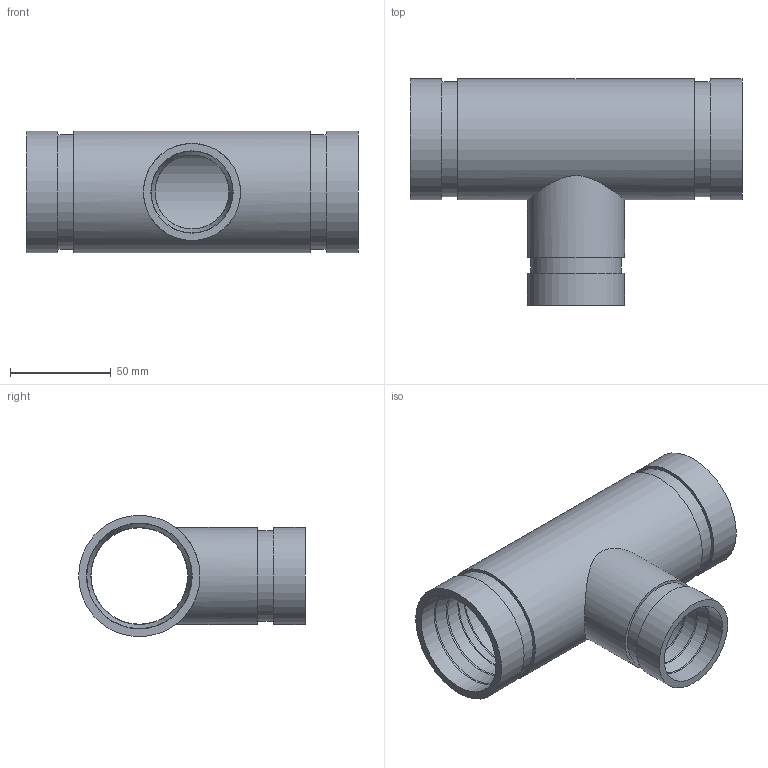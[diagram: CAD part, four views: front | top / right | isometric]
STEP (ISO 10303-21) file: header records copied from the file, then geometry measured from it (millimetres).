
FILE_DESCRIPTION(/* description */ ('VIC REDUCING TEE No 425H-SS','CAx-IF Rec.Pracs.---Representation and Presentation of Product Manufacturing Information (PMI)---4.0---2014-10-13'),/* implementation_level */ '2;1');
FILE_NAME(/* name */ 'C:\Users\kkamble\AppData\Roaming\Autodesk\ApplicationPlugins\Back Up\Victaulic_SS-OGS_Tee Reducing_Sched 40S_No 425H SS (OGS)\Victaulic_SS-OGS_Tee Reducing_Sched 40S_No 425H SS (OGS)_02.0x01.5 (50x40).stp',/* time_stamp */ '2020-08-27T17:19:30+06:00',/* author */ ('CORINNE GRAY'),/* organization */ ('Victaulic'),/* preprocessor_version */ 'ST-DEVELOPER v17.2',/* originating_system */ 'Autodesk Inventor 2019',/* authorisation */ '');
FILE_SCHEMA (('FEATURE_BASED_PROCESS_PLANNING','AP242_MANAGED_MODEL_BASED_3D_ENGINEERING_MIM_LF { 1 0 10303 442 1 1 4 }'));
Length unit declared in the file: inch
Products named in the file (1): 425H SS-02.0x01.5
Bounding box: 165.1 x 112.71 x 60.33 mm (x, y, z)
Volume: 144936.6 mm3; surface area: 74713.5 mm2
Topology: 1 solids, 1 shells, 43 faces, 134 edges, 100 vertices
Faces by surface type: cylinder 16, torus 12, plane 9, cone 6
Full cylindrical faces by diameter (mm): 36.703 x1, 40.894 x2, 45.085 x1, 48.006 x2, 48.26 x2, 52.578 x3, 57.15 x2, 60.325 x3
Entity records: 1919 total; most frequent: CARTESIAN_POINT 427, DIRECTION 352, ORIENTED_EDGE 268, AXIS2_PLACEMENT_3D 165, EDGE_CURVE 134, CIRCLE 108, VERTEX_POINT 100, EDGE_LOOP 54
